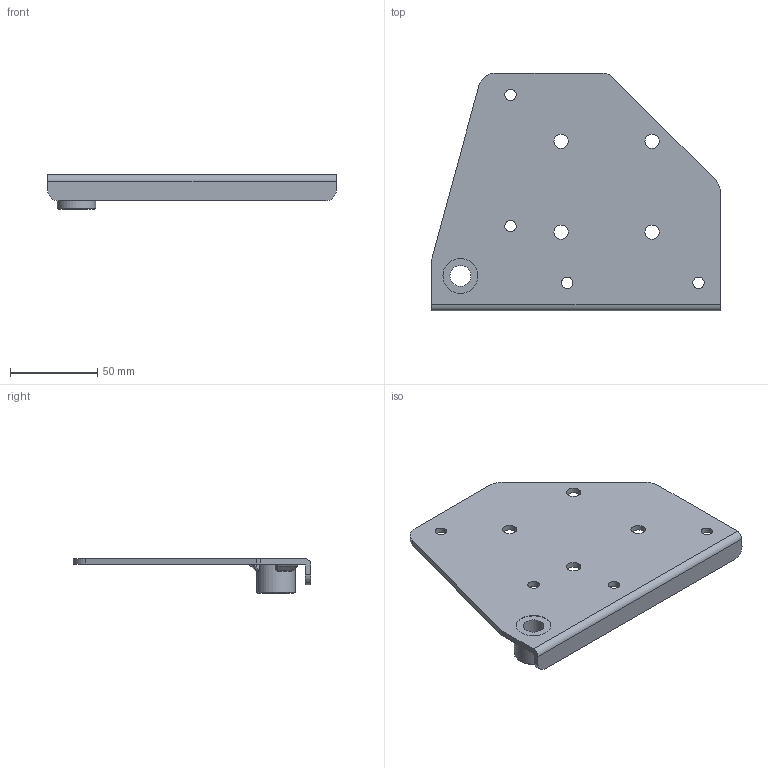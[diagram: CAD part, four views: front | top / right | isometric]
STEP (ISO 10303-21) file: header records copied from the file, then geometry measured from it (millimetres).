
FILE_DESCRIPTION(('STEP AP214'),'1');
FILE_NAME('AP40-M12L.stp','2018-04-13T10:08:22',(' '),(' '),'Spatial InterOp 3D',' ',' ');
FILE_SCHEMA(('automotive_design'));
Length unit declared in the file: millimetre
Products named in the file (1): AP40-M12L
Bounding box: 165 x 136 x 20 mm (x, y, z)
Volume: 69344.1 mm3; surface area: 44589.5 mm2
Topology: 1 solids, 1 shells, 65 faces, 183 edges, 122 vertices
Faces by surface type: cylinder 19, plane 18, bspline 18, torus 6, cone 4
Full cylindrical faces by diameter (mm): 6.5 x4, 8.2 x4, 12 x1, 20 x1, 22 x1
Entity records: 4747 total; most frequent: CARTESIAN_POINT 2696, ORIENTED_EDGE 338, DIRECTION 258, EDGE_CURVE 169, VERTEX_POINT 120, AXIS2_PLACEMENT_3D 107, EDGE_LOOP 97, FACE_OUTER_BOUND 76
